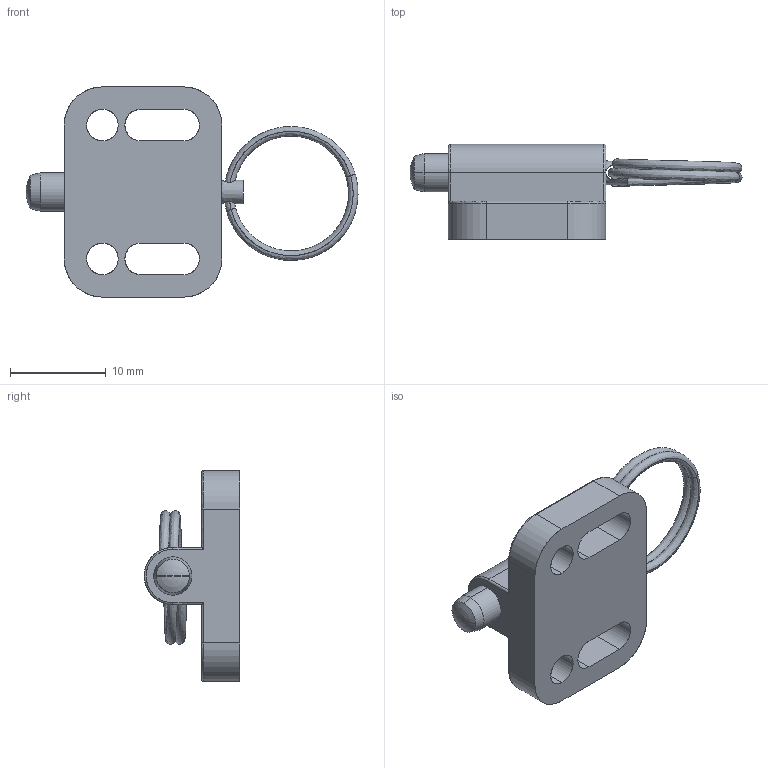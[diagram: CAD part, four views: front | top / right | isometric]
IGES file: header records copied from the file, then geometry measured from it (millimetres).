
Start section: SolidWorks IGES file using analytic representation for surfaces
Global section: file name: C:\HEMSIDA\cad\SLDPRT_2007\gn417\\gn417a_4.igs; native system: SolidWorks 2007; preprocessor: SolidWorks 2007; author: Administrator; date: 070919.152952; units: millimetre
Bounding box: 34.74 x 10 x 22 mm (x, y, z)
Surface area: 1978.3 mm2 (no closed solid volume)
Topology: 0 solids, 0 shells, 67 faces, 994 edges, 993 vertices
Faces by surface type: revolution 37, bspline 30
